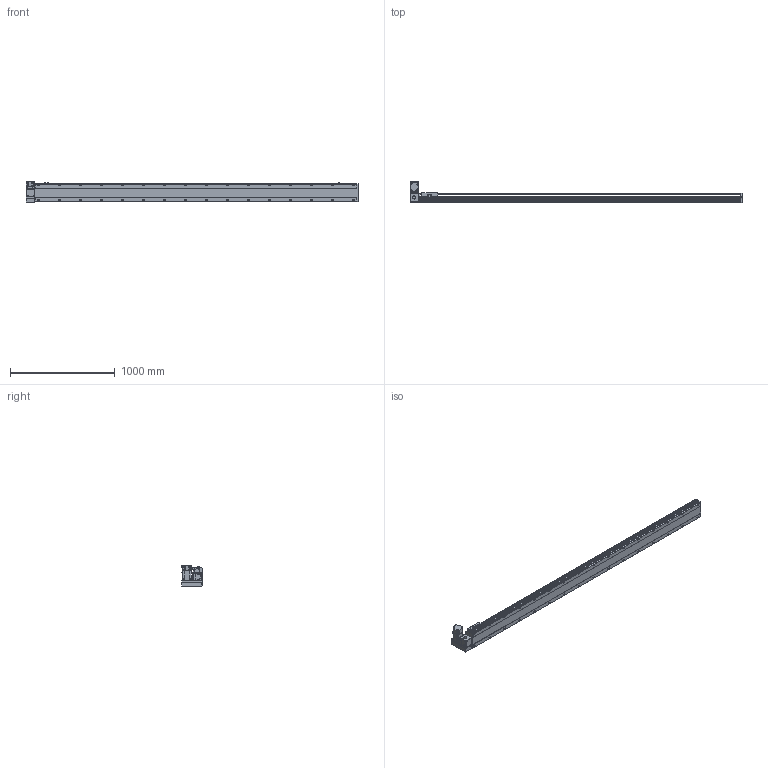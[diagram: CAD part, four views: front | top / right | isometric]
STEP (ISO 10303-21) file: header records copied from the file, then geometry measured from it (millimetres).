
FILE_DESCRIPTION( ( 'STEP AP214' ), '1' );
FILE_NAME( 'x:/temp/worker_4/temp/exporttempdir_2248_420_l1MQE/format_0/PBS170-P40-S2800-LU-T75-C1-N(0).stp', '2022-06-07T08:17:50', ( 'License CC BY-ND 4.0' ), ( 'CADENAS' ), ' ', 'PARTsolutions', ' ' );
FILE_SCHEMA( ( 'AUTOMOTIVE_DESIGN { 1 0 10303 214 1 1 1 1 }' ) );
Length unit declared in the file: millimetre
Products named in the file (7): PBS170-P40-S2800-LU-T75-C1-N(0); _PBS170-S2800()_body; _PBS170T-LU_motors; _T75-p1; _PBS170_sliser; _PBS170_plant; _PBS170_sensor
Assembly tree (8 placements, depth 2):
  PBS170-P40-S2800-LU-T75-C1-N(0)
    _PBS170-S2800()_body
    _PBS170T-LU_motors
    _T75-p1
    _PBS170_sliser
    _PBS170_plant
    _PBS170_sensor  x3
Bounding box: 3163 x 206 x 197.3 mm (x, y, z)
Volume: 23818205.2 mm3; surface area: 2986693.6 mm2
Topology: 8 solids, 8 shells, 1210 faces, 3195 edges, 2082 vertices
Faces by surface type: plane 735, cylinder 403, cone 62, sphere 8, torus 2
Full cylindrical faces by diameter (mm): 3.242 x4, 4 x2, 4.4 x4, 4.5 x6, 4.917 x4, 6 x9, 6.647 x40, 7 x2, 7.5 x4, 8 x8, 8.5 x32, 10 x4, 10.5 x32, 11 x2, 30 x2, 40 x1, 70 x1
Entity records: 44876 total; most frequent: CARTESIAN_POINT 7565, DIRECTION 5860, ORIENTED_EDGE 5508, EDGE_CURVE 2754, AXIS2_PLACEMENT_3D 2077, VERTEX_POINT 1922, LINE 1706, VECTOR 1706
